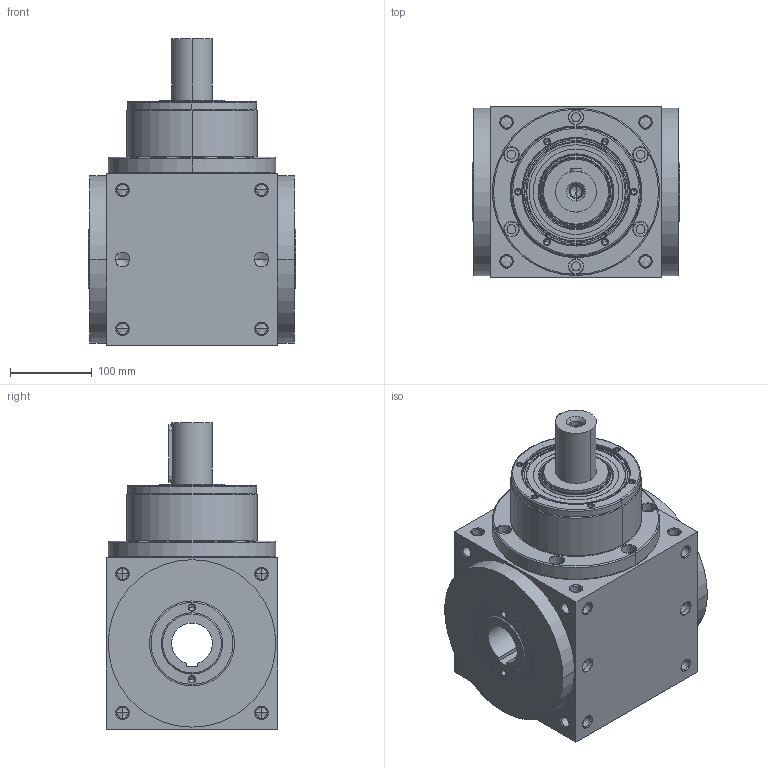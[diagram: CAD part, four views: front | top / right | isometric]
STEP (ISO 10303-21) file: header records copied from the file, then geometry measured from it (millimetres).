
FILE_DESCRIPTION((''),'2;1');
FILE_NAME('ATB210H-1_ASM','2014-08-01T',('D00080'),(''),'PRO/ENGINEER BY PARAMETRIC TECHNOLOGY CORPORATION, 2008170','PRO/ENGINEER BY PARAMETRIC TECHNOLOGY CORPORATION, 2008170','');
FILE_SCHEMA(('CONFIG_CONTROL_DESIGN'));
Length unit declared in the file: millimetre
Products named in the file (6): ATB210H-1; P1820800001; 22400071008; P0904801001; P1208800001; ATB210H-1_ASM
Assembly tree (5 placements, depth 2):
  ATB210H-1_ASM
    ATB210H-1
    P1820800001
    22400071008
    P0904801001
    P1208800001
Bounding box: 254 x 210 x 375 mm (x, y, z)
Volume: 11283884.5 mm3; surface area: 617962.5 mm2
Topology: 6 solids, 38 shells, 628 faces, 1545 edges, 912 vertices
Faces by surface type: cylinder 271, cone 238, plane 79, torus 40
Entity records: 19014 total; most frequent: CARTESIAN_POINT 4124, DIRECTION 3353, ORIENTED_EDGE 2810, EDGE_CURVE 1469, AXIS2_PLACEMENT_3D 1405, VERTEX_POINT 912, CIRCLE 758, EDGE_LOOP 745
